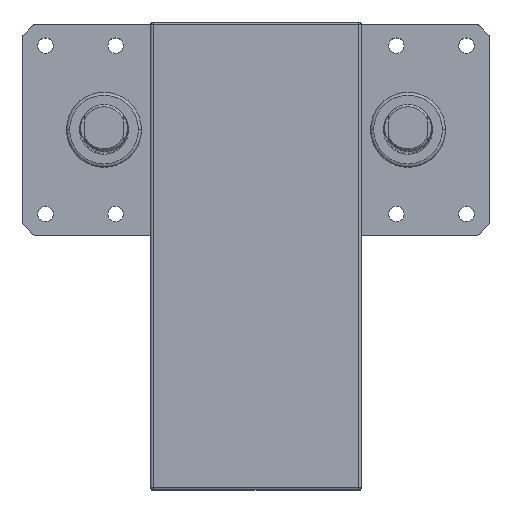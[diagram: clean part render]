
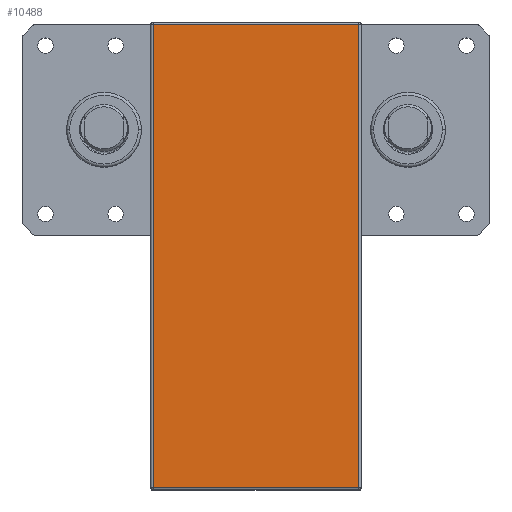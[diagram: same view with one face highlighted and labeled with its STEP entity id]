
A CAD part, top view. The second image highlights one B-rep face of the part: STEP entity #10488.
In plain terms, the highlighted planar face has unit normal (0, 0, 1).
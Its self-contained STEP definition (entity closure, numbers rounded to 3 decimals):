
#694 = LINE ( 'NONE', #19657, #19273 ) ;
#806 = VERTEX_POINT ( 'NONE', #11700 ) ;
#1005 = CARTESIAN_POINT ( 'NONE',  ( -44., 44., 613. ) ) ;
#1137 = CARTESIAN_POINT ( 'NONE',  ( -44., -154., 613. ) ) ;
#1765 = EDGE_CURVE ( 'NONE', #46316, #806, #33139, .T. ) ;
#5836 = AXIS2_PLACEMENT_3D ( 'NONE', #22165, #44558, #22308 ) ;
#10488 = ADVANCED_FACE ( 'NONE', ( #46939 ), #33369, .T. ) ;
#11700 = CARTESIAN_POINT ( 'NONE',  ( -44., 44., 613. ) ) ;
#12183 = DIRECTION ( 'NONE',  ( 0., -1., 0. ) ) ;
#13326 = VECTOR ( 'NONE', #38181, 1000. ) ;
#14410 = EDGE_CURVE ( 'NONE', #14590, #46316, #19263, .T. ) ;
#14590 = VERTEX_POINT ( 'NONE', #40990 ) ;
#17494 = EDGE_CURVE ( 'NONE', #806, #42179, #694, .T. ) ;
#17632 = DIRECTION ( 'NONE',  ( 0., 1., 0. ) ) ;
#17792 = CARTESIAN_POINT ( 'NONE',  ( 44., 44., 613. ) ) ;
#18781 = ORIENTED_EDGE ( 'NONE', *, *, #17494, .T. ) ;
#19263 = LINE ( 'NONE', #17792, #47746 ) ;
#19273 = VECTOR ( 'NONE', #12183, 1000. ) ;
#19657 = CARTESIAN_POINT ( 'NONE',  ( -44., -154., 613. ) ) ;
#20962 = VECTOR ( 'NONE', #22679, 1000. ) ;
#22134 = ORIENTED_EDGE ( 'NONE', *, *, #14410, .T. ) ;
#22146 = LINE ( 'NONE', #29949, #20962 ) ;
#22165 = CARTESIAN_POINT ( 'NONE',  ( -44., -154., 613. ) ) ;
#22308 = DIRECTION ( 'NONE',  ( 1., 0., 0. ) ) ;
#22679 = DIRECTION ( 'NONE',  ( 1., 0., 0. ) ) ;
#23468 = CARTESIAN_POINT ( 'NONE',  ( 44., 44., 613. ) ) ;
#24646 = EDGE_CURVE ( 'NONE', #42179, #14590, #22146, .T. ) ;
#26010 = ORIENTED_EDGE ( 'NONE', *, *, #24646, .T. ) ;
#27194 = ORIENTED_EDGE ( 'NONE', *, *, #1765, .T. ) ;
#29949 = CARTESIAN_POINT ( 'NONE',  ( 44., -154., 613. ) ) ;
#30468 = EDGE_LOOP ( 'NONE', ( #18781, #26010, #22134, #27194 ) ) ;
#33139 = LINE ( 'NONE', #1005, #13326 ) ;
#33369 = PLANE ( 'NONE',  #5836 ) ;
#38181 = DIRECTION ( 'NONE',  ( -1., 0., 0. ) ) ;
#40990 = CARTESIAN_POINT ( 'NONE',  ( 44., -154., 613. ) ) ;
#42179 = VERTEX_POINT ( 'NONE', #1137 ) ;
#44558 = DIRECTION ( 'NONE',  ( 0., 0., 1. ) ) ;
#46316 = VERTEX_POINT ( 'NONE', #23468 ) ;
#46939 = FACE_OUTER_BOUND ( 'NONE', #30468, .T. ) ;
#47746 = VECTOR ( 'NONE', #17632, 1000. ) ;
